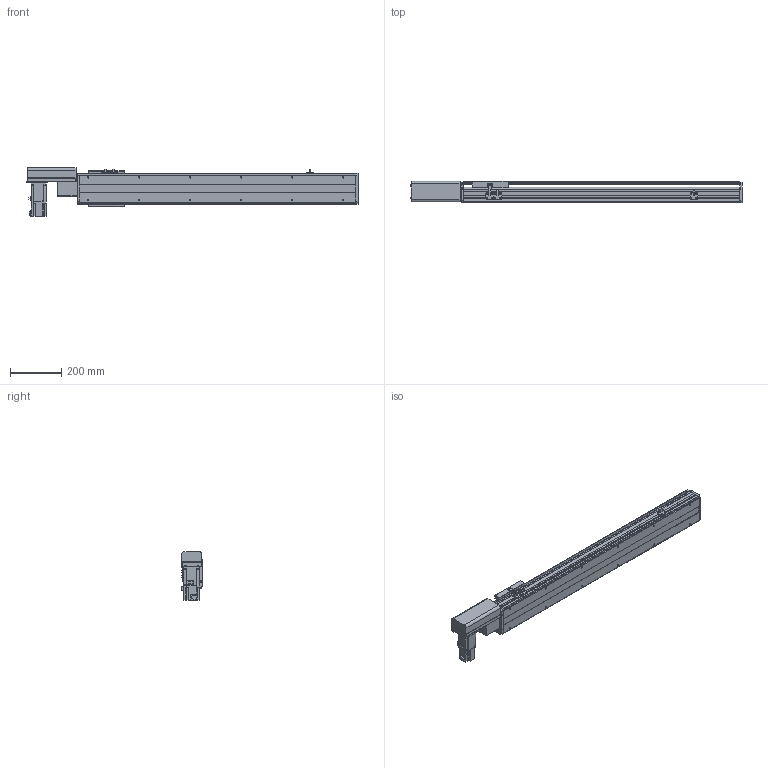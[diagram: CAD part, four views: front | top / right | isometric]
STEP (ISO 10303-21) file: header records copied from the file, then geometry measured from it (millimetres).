
FILE_DESCRIPTION( ( 'STEP AP214' ), '1' );
FILE_NAME( 'x:/temp/worker_27/temp/exporttempdir_6708_9_BbdfS/format_0/PBS120-P40-S800-R-T40-C1-N(0).stp', '2022-06-06T00:06:23', ( 'License CC BY-ND 4.0' ), ( 'CADENAS' ), ' ', 'PARTsolutions', ' ' );
FILE_SCHEMA( ( 'AUTOMOTIVE_DESIGN { 1 0 10303 214 1 1 1 1 }' ) );
Length unit declared in the file: millimetre
Products named in the file (7): PBS120-P40-S800-R-T40-C1-N(0); _PBS120-S800()_body; _PBS120T-R_motors; _T40-p1; _PBS120_sliser; _PBS120_plant; _PBS120_sensor
Assembly tree (8 placements, depth 2):
  PBS120-P40-S800-R-T40-C1-N(0)
    _PBS120-S800()_body
    _PBS120T-R_motors
    _T40-p1
    _PBS120_sliser
    _PBS120_plant
    _PBS120_sensor  x3
Bounding box: 1301 x 83 x 189.7 mm (x, y, z)
Volume: 5310411.4 mm3; surface area: 1020022.7 mm2
Topology: 8 solids, 8 shells, 816 faces, 2136 edges, 1375 vertices
Faces by surface type: plane 545, cylinder 225, cone 44, torus 2
Full cylindrical faces by diameter (mm): 2.459 x6, 3.242 x4, 4 x2, 4.134 x4, 4.5 x10, 4.917 x16, 5.5 x11, 6 x2, 6.6 x1, 7 x2, 8.5 x4, 9 x4, 12 x1, 14 x1, 30 x2, 40 x1, 50 x2
Entity records: 26988 total; most frequent: DIRECTION 3692, CARTESIAN_POINT 3641, ORIENTED_EDGE 3478, EDGE_CURVE 1739, AXIS2_PLACEMENT_3D 1232, LINE 1228, VECTOR 1228, VERTEX_POINT 1181
